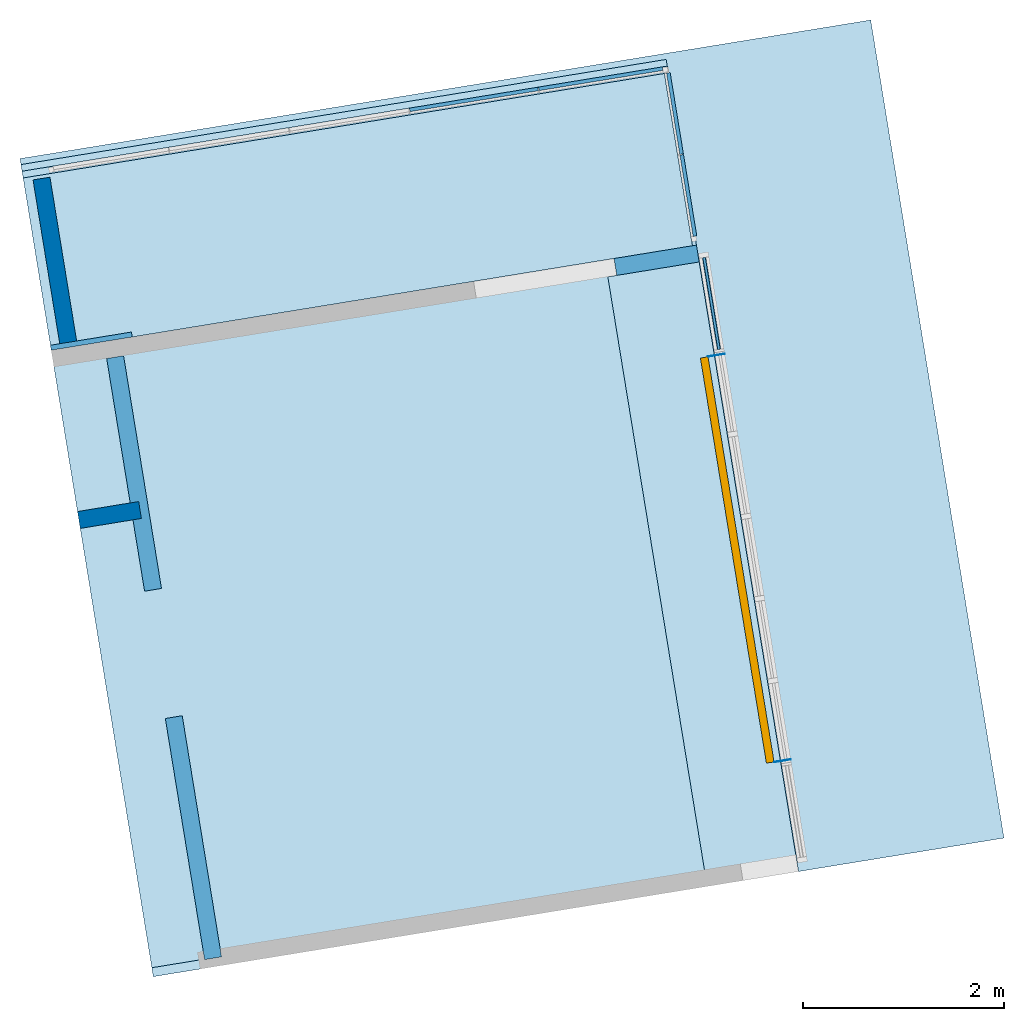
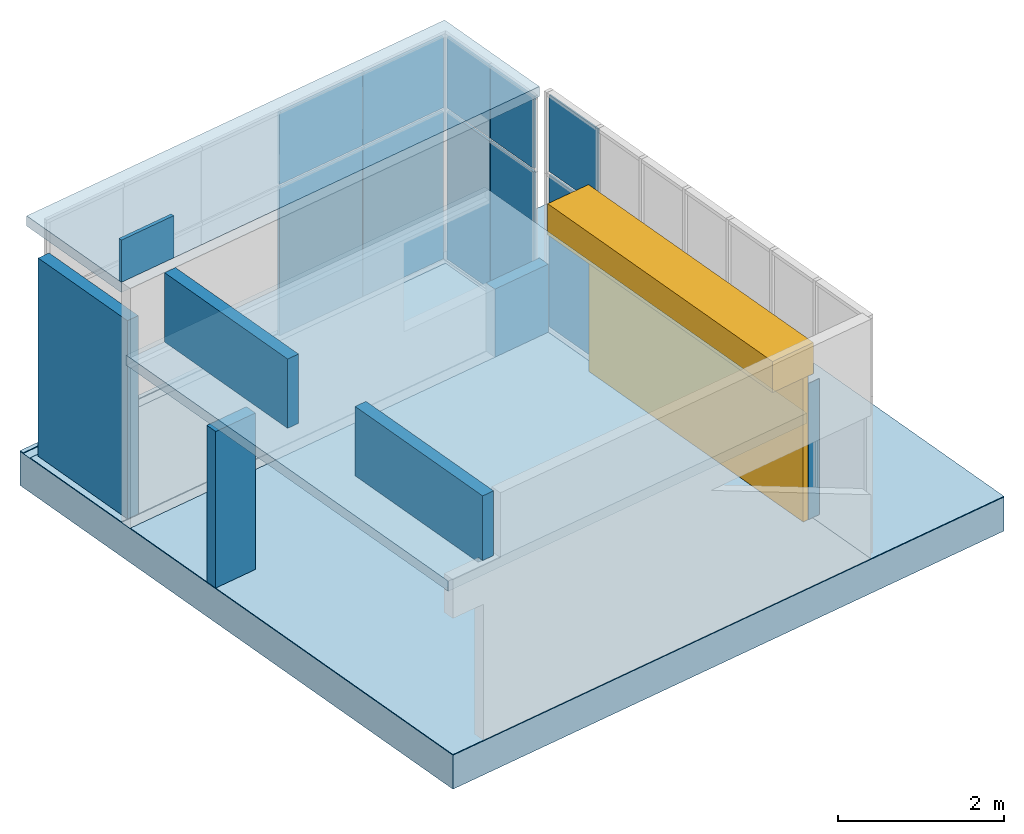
# One storey, part 12 of 13: 10 plates, 7 walls, 6 slabs, 1 door, 2 openings, 3 elements without a shape of their own.
"""IFC2X3 building model written with IfcOpenShell, lengths in millimetres."""

from ifc_helpers import new_model, entity, si_unit, converted_unit, derived_unit, direction, frame, frame_2d, origin, origin_with_axes, origin_2d_with_axis, place, context, subcontext, project, spatial, rectangle, extrude, faceted_brep, source, transform, mapped, material, layer, layer_set, layer_usage, type_object, element, fill, aggregate, save


model = new_model("IFC2X3")

# Units and contexts
plan_context = context("Plan", 3, precision=1e-05, world=origin_with_axes())
model_context = context("Model", 3, precision=0.01, world=origin(), true_north=direction((6.12323399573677e-17, 1.0)))
body_context = subcontext(model_context, "Body", "Model", "MODEL_VIEW")
ifc_project = project(units=[converted_unit("PLANEANGLEUNIT", "DEGREE", entity("IfcPositiveLengthMeasure", 0.0174532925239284), si_unit("PLANEANGLEUNIT", "RADIAN"), dimensions=[0, 0, 0, 0, 0, 0, 0]), si_unit("AREAUNIT", "SQUARE_METRE"), si_unit("LENGTHUNIT", "METRE", prefix="MILLI"), si_unit("MASSUNIT", "GRAM", prefix="KILO"), si_unit("POWERUNIT", "WATT"), si_unit("PRESSUREUNIT", "PASCAL", prefix="KILO"), si_unit("FORCEUNIT", "NEWTON", prefix="KILO"), si_unit("ELECTRICVOLTAGEUNIT", "VOLT"), si_unit("ELECTRICCURRENTUNIT", "AMPERE"), si_unit("THERMODYNAMICTEMPERATUREUNIT", "DEGREE_CELSIUS"), si_unit("TIMEUNIT", "SECOND"), si_unit("VOLUMEUNIT", "CUBIC_METRE"), derived_unit("LINEARVELOCITYUNIT", [(si_unit("LENGTHUNIT", "METRE"), 1), (si_unit("TIMEUNIT", "SECOND"), -1)]), derived_unit("VOLUMETRICFLOWRATEUNIT", [(si_unit("VOLUMEUNIT", "CUBIC_METRE"), 1), (si_unit("TIMEUNIT", "SECOND"), -1)]), derived_unit("THERMALTRANSMITTANCEUNIT", [(si_unit("POWERUNIT", "WATT"), 1), (si_unit("THERMODYNAMICTEMPERATUREUNIT", "KELVIN"), -1), (si_unit("AREAUNIT", "SQUARE_METRE"), -1)]), derived_unit("SOUNDPRESSUREUNIT", [(si_unit("PRESSUREUNIT", "PASCAL"), 1)])], contexts=[model_context, plan_context])

# Site, building, storey
site_placement = place(None, frame((-305029.896016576, -232111.759730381, 0.0), z_axis=(0.0, 0.0, 1.0), x_axis=(-0.160806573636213, 0.986985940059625, 0.0)))
site = spatial("IfcSite", under=ifc_project, at=site_placement, Name="Default", CompositionType="ELEMENT")
building_placement = place(site_placement, frame((0.0, 0.0, 0.0), z_axis=(0.0, 0.0, 1.0), x_axis=(1.0, -2.77555756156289e-17, 0.0)))
building = spatial("IfcBuilding", under=site, at=building_placement, Name="br001-a-200-1-0001", CompositionType="ELEMENT")
storey_placement = place(building_placement, frame((0.0, 0.0, 51360.0000000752), z_axis=(0.0, 0.0, 1.0), x_axis=(1.0, -2.77555756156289e-17, 0.0)))
storey = spatial("IfcBuildingStorey", under=building, at=storey_placement, Name="H01-Nivå D+0,36", CompositionType="ELEMENT", Elevation=51360.0000000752)

# Curtain wall, plates
curtain_wall_type_1 = type_object("IfcCurtainWallType", Name="Curtain Wall:NSW Innvendig glassfelt", PredefinedType="NOTDEFINED")
curtain_wall_1_placement = place(storey_placement, frame((0.0, 0.0, -51360.0000000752), z_axis=(0.0, 0.0, 1.0), x_axis=(1.0, -2.77555756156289e-17, 0.0)))
curtain_wall_1 = element("IfcCurtainWall", 1, at=curtain_wall_1_placement, inside=storey, type_object=curtain_wall_type_1, Name="Curtain Wall:NSW Innvendig glassfelt", ObjectType="Curtain Wall:NSW Innvendig glassfelt")
ifc_material_1 = material(Name="_NSW Glass")
plate_type_1 = type_object("IfcPlateType", Name="System Panel:NSW Utvendig glass", PredefinedType="CURTAIN_PANEL", material=ifc_material_1)
shared_shape_1 = source(origin(), body_context, "Body", "SweptSolid", [
    extrude(rectangle(XDim=36.0, YDim=925.000000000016, at=frame_2d((0.0, 1.15107923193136e-11), x_axis=(1.0, 0.0))), frame((0.0, 0.0, 0.0), z_axis=(0.0, 0.0, 1.0), x_axis=(0.0, 1.0, 0.0)), (0.0, 0.0, 1.0), 2225.0),
])
plate_1_placement = place(curtain_wall_1_placement, frame((1157876.09858442, -711141.378367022, 51410.0), z_axis=(0.0, 0.0, 1.0), x_axis=(1.0, -2.77555756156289e-17, 0.0)))
plate_1 = element("IfcPlate", 2, at=plate_1_placement, type_object=plate_type_1, material=ifc_material_1, Name="System Panel:NSW Utvendig glass", ObjectType="System Panel:NSW Utvendig glass", context=body_context, shape_type="MappedRepresentation", body=[
    mapped(shared_shape_1, transform((0.0, 0.0, 0.0), scale=1.0)),
])
ifc_material_2 = material(Name="Metal - Aluminium(KP)")
plate_type_2 = type_object("IfcPlateType", Name="System Panel:Solid panel", PredefinedType="CURTAIN_PANEL", material=ifc_material_2)
shared_shape_2 = source(origin(), body_context, "Body", "SweptSolid", [
    extrude(rectangle(XDim=25.0, YDim=925.000000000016, at=frame_2d((0.0, 1.15107923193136e-11), x_axis=(1.0, 0.0))), frame((0.0, 0.0, 0.0), z_axis=(0.0, 0.0, 1.0), x_axis=(0.0, 1.0, 0.0)), (0.0, 0.0, 1.0), 1125.0),
])
plate_2_placement = place(curtain_wall_1_placement, frame((1157876.09858442, -711141.378367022, 53685.0), z_axis=(0.0, 0.0, 1.0), x_axis=(1.0, -2.77555756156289e-17, 0.0)))
plate_2 = element("IfcPlate", 3, at=plate_2_placement, type_object=plate_type_2, material=ifc_material_2, Name="System Panel:Solid panel", ObjectType="System Panel:Solid panel", context=body_context, shape_type="MappedRepresentation", body=[
    mapped(shared_shape_2, transform((0.0, 0.0, 0.0), scale=1.0)),
])
aggregate(curtain_wall_1, [plate_1, plate_2])

curtain_wall_type_2 = type_object("IfcCurtainWallType", Name="Curtain Wall:A243 Innvendig glassvegg", PredefinedType="NOTDEFINED")
curtain_wall_2_placement = place(storey_placement, frame((0.0, 0.0, -51360.0000000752), z_axis=(0.0, 0.0, 1.0), x_axis=(1.0, -2.77555756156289e-17, 0.0)))
curtain_wall_2 = element("IfcCurtainWall", 4, at=curtain_wall_2_placement, inside=storey, type_object=curtain_wall_type_2, Name="Curtain Wall:A243 Innvendig glassvegg", ObjectType="Curtain Wall:A243 Innvendig glassvegg")
plate_type_3 = type_object("IfcPlateType", Name="System Panel:NSW Utvendig glass", PredefinedType="CURTAIN_PANEL", material=ifc_material_1)
shared_shape_3 = source(origin(), body_context, "Body", "SweptSolid", [
    extrude(rectangle(XDim=36.0, YDim=1293.39999999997, at=origin_2d_with_axis()), frame((0.0, 0.0, 0.0), z_axis=(0.0, 0.0, 1.0), x_axis=(0.0, 1.0, 0.0)), (0.0, 0.0, 1.0), 2171.6666666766),
])
plate_3_placement = place(curtain_wall_2_placement, frame((1160258.59858442, -709136.378367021, 51410.0000000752), z_axis=(0.0, 0.0, 1.0), x_axis=(-2.77555756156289e-17, -1.0, 0.0)))
plate_3 = element("IfcPlate", 5, at=plate_3_placement, type_object=plate_type_3, material=ifc_material_1, Name="System Panel:NSW Utvendig glass", ObjectType="System Panel:NSW Utvendig glass", context=body_context, shape_type="MappedRepresentation", body=[
    mapped(shared_shape_3, transform((0.0, 0.0, 0.0), scale=1.0)),
])
plate_type_4 = type_object("IfcPlateType", Name="System Panel:NSW Utvendig glass", PredefinedType="CURTAIN_PANEL", material=ifc_material_1)
shared_shape_4 = source(origin(), body_context, "Body", "SweptSolid", [
    extrude(rectangle(XDim=36.0, YDim=1246.69999999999, at=origin_2d_with_axis()), frame((0.0, 0.0, 0.0), z_axis=(0.0, 0.0, 1.0), x_axis=(0.0, 1.0, 0.0)), (0.0, 0.0, 1.0), 2171.6666666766),
])
plate_4_placement = place(curtain_wall_2_placement, frame((1160258.59858442, -710413.028367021, 51410.0000000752), z_axis=(0.0, 0.0, 1.0), x_axis=(-2.77555756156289e-17, -1.0, 0.0)))
plate_4 = element("IfcPlate", 6, at=plate_4_placement, type_object=plate_type_4, material=ifc_material_1, Name="System Panel:NSW Utvendig glass", ObjectType="System Panel:NSW Utvendig glass", context=body_context, shape_type="MappedRepresentation", body=[
    mapped(shared_shape_4, transform((0.0, 0.0, 0.0), scale=1.0)),
])
plate_type_5 = type_object("IfcPlateType", Name="System Panel:NSW Utvendig glass", PredefinedType="CURTAIN_PANEL", material=ifc_material_1)
shared_shape_5 = source(origin(), body_context, "Body", "SweptSolid", [
    extrude(rectangle(XDim=36.0, YDim=1293.39999999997, at=origin_2d_with_axis()), frame((0.0, 0.0, 0.0), z_axis=(0.0, 0.0, 1.0), x_axis=(0.0, 1.0, 0.0)), (0.0, 0.0, 1.0), 1048.3333333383),
])
plate_5_placement = place(curtain_wall_2_placement, frame((1160258.59858442, -709136.378367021, 53631.6666667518), z_axis=(0.0, 0.0, 1.0), x_axis=(-2.77555756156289e-17, -1.0, 0.0)))
plate_5 = element("IfcPlate", 7, at=plate_5_placement, type_object=plate_type_5, material=ifc_material_1, Name="System Panel:NSW Utvendig glass", ObjectType="System Panel:NSW Utvendig glass", context=body_context, shape_type="MappedRepresentation", body=[
    mapped(shared_shape_5, transform((0.0, 0.0, 0.0), scale=1.0)),
])
plate_type_6 = type_object("IfcPlateType", Name="System Panel:NSW Utvendig glass", PredefinedType="CURTAIN_PANEL", material=ifc_material_1)
shared_shape_6 = source(origin(), body_context, "Body", "SweptSolid", [
    extrude(rectangle(XDim=36.0, YDim=1246.69999999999, at=origin_2d_with_axis()), frame((0.0, 0.0, 0.0), z_axis=(0.0, 0.0, 1.0), x_axis=(0.0, 1.0, 0.0)), (0.0, 0.0, 1.0), 1048.3333333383),
])
plate_6_placement = place(curtain_wall_2_placement, frame((1160258.59858442, -710413.028367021, 53631.6666667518), z_axis=(0.0, 0.0, 1.0), x_axis=(-2.77555756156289e-17, -1.0, 0.0)))
plate_6 = element("IfcPlate", 8, at=plate_6_placement, type_object=plate_type_6, material=ifc_material_1, Name="System Panel:NSW Utvendig glass", ObjectType="System Panel:NSW Utvendig glass", context=body_context, shape_type="MappedRepresentation", body=[
    mapped(shared_shape_6, transform((0.0, 0.0, 0.0), scale=1.0)),
])
aggregate(curtain_wall_2, [plate_3, plate_4, plate_5, plate_6])

curtain_wall_3_placement = place(storey_placement, frame((0.0, 0.0, -51360.0000000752), z_axis=(0.0, 0.0, 1.0), x_axis=(1.0, -2.77555756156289e-17, 0.0)))
curtain_wall_3 = element("IfcCurtainWall", 9, at=curtain_wall_3_placement, inside=storey, type_object=curtain_wall_type_2, Name="Curtain Wall:A243 Innvendig glassvegg", ObjectType="Curtain Wall:A243 Innvendig glassvegg")
plate_type_7 = type_object("IfcPlateType", Name="System Panel:NSW Utvendig glass", PredefinedType="CURTAIN_PANEL", material=ifc_material_1)
shared_shape_7 = source(origin(), body_context, "Body", "SweptSolid", [
    extrude(rectangle(XDim=36.0, YDim=819.199999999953, at=origin_2d_with_axis()), frame((0.0, 0.0, 0.0), z_axis=(0.0, 0.0, 1.0), x_axis=(0.0, 1.0, 0.0)), (0.0, 0.0, 1.0), 2171.6666666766),
])
plate_7_placement = place(curtain_wall_3_placement, frame((1159798.99858442, -711086.378367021, 51410.0000000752), z_axis=(0.0, 0.0, 1.0), x_axis=(-1.0, 2.77555756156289e-17, 0.0)))
plate_7 = element("IfcPlate", 10, at=plate_7_placement, type_object=plate_type_7, material=ifc_material_1, Name="System Panel:NSW Utvendig glass", ObjectType="System Panel:NSW Utvendig glass", context=body_context, shape_type="MappedRepresentation", body=[
    mapped(shared_shape_7, transform((0.0, 0.0, 0.0), scale=1.0)),
])
plate_8_placement = place(curtain_wall_3_placement, frame((1158973.19858442, -711086.378367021, 51410.0000000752), z_axis=(0.0, 0.0, 1.0), x_axis=(-1.0, 2.77555756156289e-17, 0.0)))
plate_8 = element("IfcPlate", 11, at=plate_8_placement, type_object=plate_type_7, material=ifc_material_1, Name="System Panel:NSW Utvendig glass", ObjectType="System Panel:NSW Utvendig glass", context=body_context, shape_type="MappedRepresentation", body=[
    mapped(shared_shape_7, transform((0.0, 0.0, 0.0), scale=1.0)),
])
plate_type_8 = type_object("IfcPlateType", Name="System Panel:NSW Utvendig glass", PredefinedType="CURTAIN_PANEL", material=ifc_material_1)
shared_shape_8 = source(origin(), body_context, "Body", "SweptSolid", [
    extrude(rectangle(XDim=36.0, YDim=819.199999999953, at=origin_2d_with_axis()), frame((0.0, 0.0, 0.0), z_axis=(0.0, 0.0, 1.0), x_axis=(0.0, 1.0, 0.0)), (0.0, 0.0, 1.0), 1048.3333333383),
])
plate_9_placement = place(curtain_wall_3_placement, frame((1159798.99858442, -711086.378367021, 53631.6666667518), z_axis=(0.0, 0.0, 1.0), x_axis=(-1.0, 2.77555756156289e-17, 0.0)))
plate_9 = element("IfcPlate", 12, at=plate_9_placement, type_object=plate_type_8, material=ifc_material_1, Name="System Panel:NSW Utvendig glass", ObjectType="System Panel:NSW Utvendig glass", context=body_context, shape_type="MappedRepresentation", body=[
    mapped(shared_shape_8, transform((0.0, 0.0, 0.0), scale=1.0)),
])
plate_10_placement = place(curtain_wall_3_placement, frame((1158973.19858442, -711086.378367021, 53631.6666667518), z_axis=(0.0, 0.0, 1.0), x_axis=(-1.0, 2.77555756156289e-17, 0.0)))
plate_10 = element("IfcPlate", 13, at=plate_10_placement, type_object=plate_type_8, material=ifc_material_1, Name="System Panel:NSW Utvendig glass", ObjectType="System Panel:NSW Utvendig glass", context=body_context, shape_type="MappedRepresentation", body=[
    mapped(shared_shape_8, transform((0.0, 0.0, 0.0), scale=1.0)),
])
aggregate(curtain_wall_3, [plate_7, plate_8, plate_9, plate_10])

# Slabs
ifc_material_3 = material(Name="<Unnamed>")
ifc_layer_1 = layer(ifc_material_3, 150.0)
ifc_layer_set_1 = layer_set([ifc_layer_1], Name="Floor:Generic 150mm")
slab_type_1 = type_object("IfcSlabType", Name="Floor:Generic 150mm", PredefinedType="FLOOR", material=ifc_layer_set_1)
slab_1_placement = place(storey_placement, frame((0.0, 0.0, 0.0), z_axis=(0.0, 0.0, 1.0), x_axis=(1.0, -2.77555756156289e-17, 0.0)))
element("IfcSlab", 14, at=slab_1_placement, inside=storey, type_object=slab_type_1, Name="Floor:Generic 150mm", ObjectType="Floor:Generic 150mm", PredefinedType="FLOOR", context=body_context, shape_type="Brep", body=[
    faceted_brep([(1160276.59858442, -711086.378367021, 3520.00000001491), (1160276.59858442, -711086.378367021, 3370.00000001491), (1158473.59858442, -711086.378367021, 3370.00000001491), (1158473.59858442, -711086.378367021, 3520.00000001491), (1158473.59858442, -704587.378367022, 3370.00000001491), (1158473.59858442, -704587.378367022, 3520.00000001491), (1160276.59858442, -704587.378367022, 3520.00000001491), (1160276.59858442, -704587.378367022, 3370.00000001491)], [[[0, 1, 2, 3]], [[4, 5, 3, 2]], [[6, 7, 1, 0]], [[5, 6, 0, 3]], [[7, 4, 2, 1]], [[7, 6, 5, 4]]], orient=[[False], [False], [False], [False], [False], [False]]),
])
slab_2_placement = place(storey_placement, frame((0.0, 0.0, 0.0), z_axis=(0.0, 0.0, 1.0), x_axis=(1.0, -2.77555756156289e-17, 0.0)))
element("IfcSlab", 15, at=slab_2_placement, inside=storey, type_object=slab_type_1, Name="Floor:Generic 150mm", ObjectType="Floor:Generic 150mm", PredefinedType="FLOOR", context=body_context, shape_type="Brep", body=[
    faceted_brep([(1158383.59858442, -710166.378367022, 2500.0), (1158383.59858442, -710166.378367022, 2350.0), (1152253.59858442, -710166.378367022, 2350.0), (1152253.59858442, -710166.378367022, 2500.0), (1152253.59858442, -704587.378367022, 2350.0), (1152253.59858442, -704587.378367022, 2500.0), (1158383.59858442, -704587.378367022, 2500.0), (1158383.59858442, -704587.378367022, 2350.0)], [[[0, 1, 2, 3]], [[4, 5, 3, 2]], [[6, 7, 1, 0]], [[5, 6, 0, 3]], [[7, 4, 2, 1]], [[7, 6, 5, 4]]], orient=[[False], [False], [False], [False], [False], [False]]),
])
ifc_material_4 = material(Name="_NSW Betong")
ifc_layer_2 = layer(ifc_material_4, 500.0)
ifc_layer_set_2 = layer_set([ifc_layer_2], Name="Floor:B250 - Betong - 500 mm")
slab_type_2 = type_object("IfcSlabType", Name="Floor:B250 - Betong - 500 mm", PredefinedType="FLOOR", material=ifc_layer_set_2)
slab_3_placement = place(storey_placement, frame((1099478.50237423, -845820.784591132, -510.0), z_axis=(0.0, 0.0, 1.0), x_axis=(1.0, -2.77555756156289e-17, 0.0)))
element("IfcSlab", 16, at=slab_3_placement, inside=storey, type_object=slab_type_2, Name="Floor:B250 - Betong - 500 mm", ObjectType="Floor:B250 - Betong - 500 mm", PredefinedType="FLOOR", context=body_context, shape_type="Brep", body=[
    faceted_brep([(52685.0962101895, 132664.406224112, 500.0), (52685.0962101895, 141233.406224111, 500.0), (60925.09621019, 141233.406224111, 500.0), (60925.09621019, 132664.406224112, 500.0), (52685.0962101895, 141233.406224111, 7.95807864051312e-13), (52685.0962101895, 132664.406224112, 7.95807864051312e-13), (60925.09621019, 132664.406224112, 1.02318153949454e-12), (60925.09621019, 141233.406224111, 7.95807864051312e-13)], [[[0, 1, 2, 3]], [[4, 5, 6, 7]], [[3, 2, 7, 6]], [[2, 1, 4, 7]], [[1, 0, 5, 4]], [[0, 3, 6, 5]]], orient=[[False], [False], [False], [False], [False], [False]]),
])
ifc_material_5 = material(Name="A255 - Flis 300 x 300")
ifc_layer_3 = layer(ifc_material_5, 10.0)
ifc_layer_set_3 = layer_set([ifc_layer_3], Name="Floor:Eksisterende flis 300 x 300")
slab_type_3 = type_object("IfcSlabType", Name="Floor:Eksisterende flis 300 x 300", PredefinedType="FLOOR", material=ifc_layer_set_3)
slab_4_placement = place(storey_placement, frame((0.0, 0.0, 0.0), z_axis=(0.0, 0.0, 1.0), x_axis=(1.0, -2.77555756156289e-17, 0.0)))
element("IfcSlab", 17, at=slab_4_placement, inside=storey, type_object=slab_type_3, Name="Floor:Eksisterende flis 300 x 300", ObjectType="Floor:Eksisterende flis 300 x 300", PredefinedType="FLOOR", context=body_context, shape_type="Brep", body=[
    faceted_brep([(1152163.59858442, -711086.378367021, -9.99999999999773), (1152163.59858442, -711086.378367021, 0.0), (1158303.59858442, -711086.378367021, 0.0), (1158303.59858442, -711086.378367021, -9.99999999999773), (1158303.59858442, -704587.378367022, 0.0), (1158303.59858442, -704587.378367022, -9.99999999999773), (1152163.59858442, -704587.378367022, 1.13686837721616e-13), (1152163.59858442, -704587.378367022, -9.99999999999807)], [[[0, 1, 2, 3]], [[4, 5, 3, 2]], [[1, 6, 4, 2]], [[5, 7, 0, 3]], [[7, 5, 4, 6]], [[6, 1, 0, 7]]], orient=[[False], [False], [False], [False], [False], [False]]),
])
ifc_layer_4 = layer(ifc_material_4, 10.0)
ifc_layer_set_4 = layer_set([ifc_layer_4], Name="Floor:Nytt gulv")
slab_type_4 = type_object("IfcSlabType", Name="Floor:Nytt gulv", PredefinedType="FLOOR", material=ifc_layer_set_4)
slab_5_placement = place(storey_placement, frame((0.0, 0.0, 0.0), z_axis=(0.0, 0.0, 1.0), x_axis=(1.0, -2.77555756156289e-17, 0.0)))
element("IfcSlab", 18, at=slab_5_placement, inside=storey, type_object=slab_type_4, Name="Floor:Nytt gulv", ObjectType="Floor:Nytt gulv", PredefinedType="FLOOR", context=body_context, shape_type="Brep", body=[
    faceted_brep([(1160208.59858442, -711046.378367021, 0.0), (1160208.59858442, -711046.378367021, -9.99999999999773), (1158473.59858442, -711046.378367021, -9.99999999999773), (1158473.59858442, -711046.378367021, 0.0), (1158473.59858442, -704587.378367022, -9.99999999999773), (1158473.59858442, -704587.378367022, 0.0), (1160208.59858442, -704587.378367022, 0.0), (1160208.59858442, -704587.378367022, -9.99999999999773)], [[[0, 1, 2, 3]], [[4, 5, 3, 2]], [[6, 7, 1, 0]], [[5, 6, 0, 3]], [[7, 4, 2, 1]], [[7, 6, 5, 4]]], orient=[[False], [False], [False], [False], [False], [False]]),
])
ifc_material_6 = material(Name="A255 - Flis")
ifc_layer_5 = layer(ifc_material_6, 10.0)
ifc_layer_set_5 = layer_set([ifc_layer_5], Name="Floor:Eksisterende terrazzoflis")
slab_type_5 = type_object("IfcSlabType", Name="Floor:Eksisterende terrazzoflis", PredefinedType="FLOOR", material=ifc_layer_set_5)
slab_6_placement = place(storey_placement, frame((0.0, 0.0, 0.0), z_axis=(0.0, 0.0, 1.0), x_axis=(1.0, -2.77555756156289e-17, 0.0)))
element("IfcSlab", 19, at=slab_6_placement, inside=storey, type_object=slab_type_5, Name="Floor:Eksisterende terrazzoflis", ObjectType="Floor:Eksisterende terrazzoflis", PredefinedType="FLOOR", context=body_context, shape_type="Brep", body=[
    faceted_brep([(1160343.59858442, -704587.378367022, -2.27373675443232e-12), (1160403.59858442, -704587.378367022, 1.13686837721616e-13), (1160403.59858442, -713156.378367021, 1.13686837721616e-13), (1152163.59858442, -713156.378367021, 1.13686837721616e-13), (1152163.59858442, -711086.378367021, -2.27373675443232e-12), (1160343.59858442, -711086.378367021, -2.27373675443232e-12), (1152163.59858442, -711086.378367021, -10.0), (1152163.59858442, -713156.378367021, -9.99999999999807), (1160403.59858442, -713156.378367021, -9.99999999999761), (1160403.59858442, -704587.378367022, -9.99999999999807), (1160343.59858442, -704587.378367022, -10.0), (1160343.59858442, -711086.378367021, -10.0)], [[[0, 1, 2, 3, 4, 5]], [[6, 7, 8, 9, 10, 11]], [[4, 6, 11, 5]], [[10, 0, 5, 11]], [[2, 1, 9, 8]], [[1, 0, 10, 9]], [[7, 6, 4, 3]], [[3, 2, 8, 7]]], orient=[[False], [False], [False], [False], [False], [False], [False], [False]]),
])

# Wall
ifc_material_7 = material(Name="_NSW Standard")
ifc_layer_6 = layer(ifc_material_7, 170.0)
ifc_layer_set_6 = layer_set([ifc_layer_6], Name="Basic Wall:A242 - Standard 170")
wall_type_1 = type_object("IfcWallType", Name="Basic Wall:A242 - Standard 170", PredefinedType="STANDARD", material=ifc_layer_set_6)
wall_1_placement = place(storey_placement, frame((1152248.59858442, -705203.378367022, 2500.0), z_axis=(0.0, 0.0, 1.0), x_axis=(1.0, -2.77555756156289e-17, 0.0)))
element("IfcWall", 20, at=wall_1_placement, inside=storey, type_object=wall_type_1, Name="Basic Wall:A242 - Standard 170", ObjectType="Basic Wall:A242 - Standard 170", context=body_context, shape_type="Brep", body=[
    faceted_brep([(85.0, -85.0, 0.0), (2429.0, -85.0, 0.0), (2429.0, -85.0, 1020.0000000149), (0.0, -85.0, 1020.0000000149), (0.0, -85.0, 69.6551723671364), (85.0, -85.0, 69.6551723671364), (85.0, 85.0, 0.0), (85.0, 85.0, 69.6551723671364), (0.0, 85.0, 69.6551723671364), (0.0, 85.0, 1020.0000000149), (2429.0, 85.0, 1020.0000000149), (2429.0, 85.0, 0.0)], [[[0, 1, 2, 3, 4, 5]], [[6, 7, 8, 9, 10, 11]], [[1, 0, 6, 11]], [[2, 1, 11, 10]], [[3, 2, 10, 9]], [[4, 3, 9, 8]], [[4, 8, 7, 5]], [[0, 5, 7, 6]]]),
])

# Wall, opening, door
ifc_layer_usage_1 = layer_usage(ifc_layer_set_6, "AXIS2", "NEGATIVE", 85.0)
wall_2_placement = place(storey_placement, frame((1157363.59858442, -711106.378367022, 0.0), z_axis=(0.0, 0.0, 1.0), x_axis=(-1.0, 2.77555756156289e-17, 0.0)))
wall_2 = element("IfcWallStandardCase", 21, at=wall_2_placement, inside=storey, type_object=wall_type_1, material=ifc_layer_usage_1, Name="Basic Wall:A242 - Standard 170", ObjectType="Basic Wall:A242 - Standard 170", context=body_context, shape_type="SweptSolid", body=[
    extrude(rectangle(XDim=4089.99999999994, YDim=170.000000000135, at=frame_2d((2044.99999999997, 0.0), x_axis=(-1.0, 0.0))), origin(), (0.0, 0.0, 1.0), 2000.0),
])
opening_1_placement = place(wall_2_placement, frame((4084.99999999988, 85.0, 0.0), z_axis=(0.0, 0.0, 1.0), x_axis=(1.0, -2.77555756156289e-17, 0.0)))
opening_1 = element("IfcOpeningElement", 22, at=opening_1_placement, cuts=wall_2, Name="M_Overhead-Rolling:Ny 1100 x 2200mm:1", ObjectType="Opening", context=body_context, shape_type="SweptSolid", body=[
    extrude(rectangle(XDim=2200.0, YDim=4080.0, at=frame_2d((1100.0, 2040.0), x_axis=(1.0, 0.0))), frame((0.0, 0.0, 0.0), z_axis=(0.0, -1.0, 0.0), x_axis=(0.0, 0.0, 1.0)), (0.0, 0.0, 1.0), 170.0),
])
ifc_material_8 = material(Name="Metal - Paint Finish - Ivory, Matte")
door_style = type_object("IfcDoorStyle", Name="M_Overhead-Rolling:Ny 1100 x 2200mm", ConstructionType="NOTDEFINED", OperationType="NOTDEFINED", ParameterTakesPrecedence=False, Sizeable=False, material=ifc_material_8)
shared_shape_9 = source(origin(), body_context, "Body", "SweptSolid", [
    extrude(rectangle(XDim=4080.00000000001, YDim=76.0, at=frame_2d((0.0, -7.105427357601e-15), x_axis=(1.0, 0.0))), frame((2040.0, -38.0, 0.0), z_axis=(0.0, 0.0, 1.0), x_axis=(-1.0, 0.0, 0.0)), (0.0, 0.0, 1.0), 2200.0),
    extrude(rectangle(XDim=634.8, YDim=4280.0, at=frame_2d((2.8421709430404e-14, 0.0), x_axis=(1.0, 0.0))), frame((2040.0, -317.400000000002, 2200.0), z_axis=(0.0, 0.0, 1.0), x_axis=(0.0, 1.0, 0.0)), (0.0, 0.0, 1.0), 457.199999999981),
])
door_placement = place(opening_1_placement, frame((-4080.00000000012, -170.0, 0.0), z_axis=(0.0, 0.0, 1.0), x_axis=(1.0, -2.77555756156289e-17, 0.0)))
door = element("IfcDoor", 23, at=door_placement, inside=storey, type_object=door_style, material=ifc_material_8, Name="M_Overhead-Rolling:Ny 1100 x 2200mm", ObjectType="M_Overhead-Rolling:Ny 1100 x 2200mm", OverallHeight=2200.0, OverallWidth=4080.00000000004, context=body_context, shape_type="MappedRepresentation", body=[
    mapped(shared_shape_9, transform((0.0, 0.0, 0.0), scale=1.0)),
])
fill(opening_1, door)

# Wall
ifc_layer_usage_2 = layer_usage(ifc_layer_set_6, "AXIS2", "NEGATIVE", 85.0)
wall_3_placement = place(storey_placement, frame((1158473.59858442, -704766.378367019, 0.0), z_axis=(0.0, 0.0, 1.0), x_axis=(1.0, -2.77555756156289e-17, 0.0)))
element("IfcWallStandardCase", 24, at=wall_3_placement, inside=storey, type_object=wall_type_1, material=ifc_layer_usage_2, Name="Basic Wall:A242 - Standard 170", ObjectType="Basic Wall:A242 - Standard 170", context=body_context, shape_type="SweptSolid", body=[
    extrude(rectangle(XDim=1700.0000000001, YDim=170.000000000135, at=frame_2d((850.000000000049, 0.0), x_axis=(-1.0, 0.0))), origin(), (0.0, 0.0, 1.0), 2914.65540916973),
])

# Wall, opening
ifc_layer_usage_3 = layer_usage(ifc_layer_set_6, "AXIS2", "NEGATIVE", 85.0)
wall_4_placement = place(storey_placement, frame((1158388.59858442, -711086.378367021, -7.51751940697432e-08), z_axis=(0.0, 0.0, 1.0), x_axis=(2.77555756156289e-17, 1.0, 0.0)))
wall_4 = element("IfcWallStandardCase", 25, at=wall_4_placement, inside=storey, type_object=wall_type_1, material=ifc_layer_usage_3, Name="Basic Wall:A242 - Standard 170", ObjectType="Basic Wall:A242 - Standard 170", context=body_context, shape_type="SweptSolid", body=[
    extrude(rectangle(XDim=829.999999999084, YDim=170.000000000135, at=frame_2d((414.999999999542, 6.88515910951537e-12), x_axis=(-1.0, 0.0))), origin(), (0.0, 0.0, 1.0), 1000.00000000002),
])
opening_2_placement = place(wall_4_placement, frame((0.0, 0.0, 0.0), z_axis=(0.0, 0.0, 1.0), x_axis=(1.0, -2.77555756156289e-17, 0.0)))
element("IfcOpeningElement", 26, at=opening_2_placement, cuts=wall_4, Name="Basic Wall:A242 - Standard 170", ObjectType="Opening", context=body_context, shape_type="SweptSolid", body=[
    extrude(rectangle(XDim=2100.00000000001, YDim=909.999999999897, at=frame_2d((6.93205493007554e-11, 0.0), x_axis=(0.0, 1.0))), frame((8525.0, -1439.0, 1050.00000000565), z_axis=(0.0, 1.0, 0.0), x_axis=(-1.0, 0.0, 0.0)), (0.0, 0.0, 1.0), 3048.0),
])

# Walls
ifc_layer_usage_4 = layer_usage(ifc_layer_set_6, "AXIS2", "NEGATIVE", 85.0)
wall_5_placement = place(storey_placement, frame((1155959.59858442, -705203.378367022, 2500.0), z_axis=(0.0, 0.0, 1.0), x_axis=(1.0, -2.77555756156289e-17, 0.0)))
element("IfcWallStandardCase", 27, at=wall_5_placement, inside=storey, type_object=wall_type_1, material=ifc_layer_usage_4, Name="Basic Wall:A242 - Standard 170", ObjectType="Basic Wall:A242 - Standard 170", context=body_context, shape_type="SweptSolid", body=[
    extrude(rectangle(XDim=2344.00000000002, YDim=170.000000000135, at=frame_2d((1172.00000000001, 0.0), x_axis=(-1.0, 0.0))), origin(), (0.0, 0.0, 1.0), 1020.00000001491),
])
wall_6_placement = place(storey_placement, frame((1156763.59858442, -705203.378367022, 0.0), z_axis=(0.0, 0.0, 1.0), x_axis=(2.77555756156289e-17, 1.0, 0.0)))
element("IfcWall", 28, at=wall_6_placement, inside=storey, type_object=wall_type_1, Name="Basic Wall:A242 - Standard 170", ObjectType="Basic Wall:A242 - Standard 170", context=body_context, shape_type="Brep", body=[
    faceted_brep([(616.000000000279, 85.0000000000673, 0.0), (616.000000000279, 85.0000000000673, 2300.0), (0.0, 85.0000000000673, 2300.0), (0.0, 85.0000000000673, 0.0), (0.0, -85.0000000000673, 2300.0), (0.0, -85.0000000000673, 0.0), (616.000000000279, -85.0000000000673, 2300.0), (616.000000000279, -85.0000000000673, 0.0)], [[[0, 1, 2, 3]], [[3, 2, 4, 5]], [[6, 7, 5, 4]], [[7, 0, 3, 5]], [[1, 6, 4, 2]], [[7, 6, 1, 0]]], orient=[[False], [False], [False], [False], [False], [False]]),
])
ifc_material_9 = material(Name="Glass")
ifc_layer_7 = layer(ifc_material_9, 50.0)
ifc_layer_set_7 = layer_set([ifc_layer_7], Name="Basic Wall:NSW Innvendig - Glassvegg 50")
wall_type_2 = type_object("IfcWallType", Name="Basic Wall:NSW Innvendig - Glassvegg 50", PredefinedType="STANDARD", material=ifc_layer_set_7)
wall_7_placement = place(storey_placement, frame((1158498.59858442, -705403.378367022, 3520.00000001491), z_axis=(0.0, 0.0, 1.0), x_axis=(2.77555756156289e-17, 1.0, 0.0)))
element("IfcWall", 29, at=wall_7_placement, inside=storey, type_object=wall_type_2, Name="Basic Wall:NSW Innvendig - Glassvegg 50", ObjectType="Basic Wall:NSW Innvendig - Glassvegg 50", context=body_context, shape_type="Brep", body=[
    faceted_brep([(816.000000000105, 25.0000000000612, 0.0), (816.000000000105, 25.0000000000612, 619.999999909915), (0.0, 25.0000000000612, 619.999999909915), (0.0, 25.0000000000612, 0.0), (0.0, -24.9999999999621, 619.999999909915), (0.0, -24.9999999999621, 0.0), (816.000000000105, -24.9999999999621, 619.999999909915), (816.000000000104, -24.9999999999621, 9.86399570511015e-14)], [[[0, 1, 2, 3]], [[2, 4, 5, 3]], [[4, 6, 7, 5]], [[7, 0, 3, 5]], [[1, 0, 7, 6]], [[6, 4, 2, 1]]], orient=[[False], [False], [False], [False], [False], [False]]),
])

save(model, "model.ifc")
